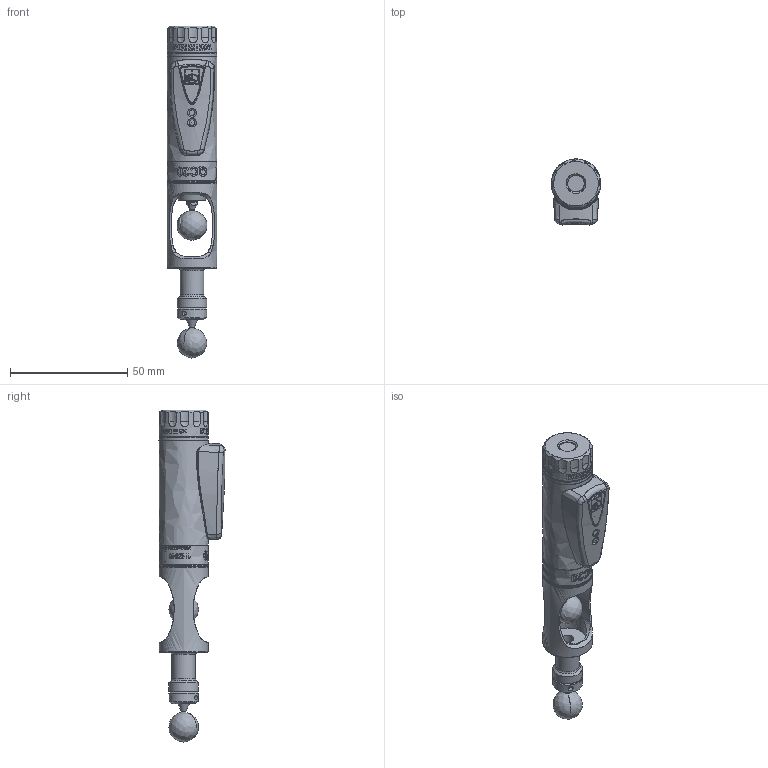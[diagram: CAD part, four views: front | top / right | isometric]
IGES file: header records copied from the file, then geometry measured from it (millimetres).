
Global section: file name: Y:\_LCPD Drawings\13.1 Lightweight Models\8014\LA-8014-2501 QC20 AND SCAK (BLE UPGRADE)\LA-8014-2501 QC20 + SMALL CIRCLE.igs; native system: NX V1926; preprocessor: SIEMENS PLM Software NX 1946; date: 20220127.091809; units: millimetre
Bounding box: 21.02 x 28.11 x 141.37 mm (x, y, z)
Surface area: 13595.1 mm2 (no closed solid volume)
Topology: 0 solids, 0 shells, 864 faces, 6392 edges, 6254 vertices
Faces by surface type: bspline 864
